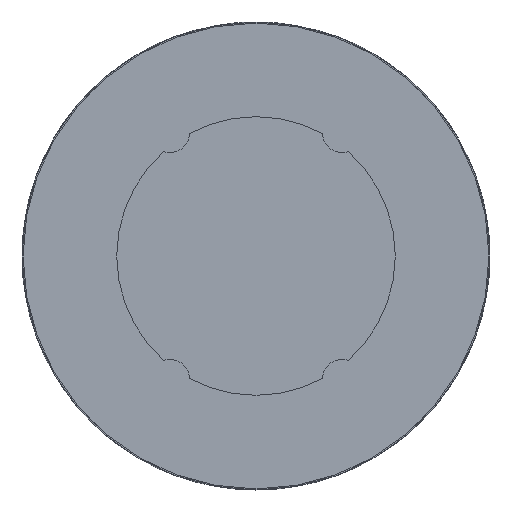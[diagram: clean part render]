
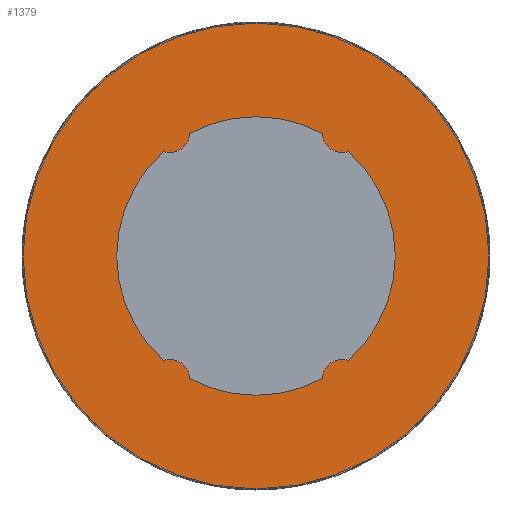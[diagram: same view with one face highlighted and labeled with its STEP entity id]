
A CAD part, left-side view. The second image highlights one B-rep face of the part: STEP entity #1379.
In plain terms, the highlighted planar face has unit normal (-1, 0, 0).
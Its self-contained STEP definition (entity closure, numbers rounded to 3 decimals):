
#1123=CARTESIAN_POINT('',(0.0,-5.974,-10.98));
#1124=VERTEX_POINT('',#1123);
#1131=CARTESIAN_POINT('',(0.0,-8.275,-9.369));
#1132=VERTEX_POINT('',#1131);
#1133=CARTESIAN_POINT('',(0.0,-7.723,-11.03));
#1134=DIRECTION('',(1.0,0.0,0.0));
#1135=DIRECTION('',(0.0,1.,0.028));
#1136=AXIS2_PLACEMENT_3D('',#1133,#1134,#1135);
#1137=CIRCLE('',#1136,1.75);
#1138=EDGE_CURVE('',#1124,#1132,#1137,.T.);
#1165=CARTESIAN_POINT('',(0.0,8.275,-9.369));
#1166=VERTEX_POINT('',#1165);
#1173=CARTESIAN_POINT('',(0.0,5.974,-10.98));
#1174=VERTEX_POINT('',#1173);
#1175=CARTESIAN_POINT('',(0.0,7.723,-11.03));
#1176=DIRECTION('',(1.,0.0,0.0));
#1177=DIRECTION('',(0.0,0.315,0.949));
#1178=AXIS2_PLACEMENT_3D('',#1175,#1176,#1177);
#1179=CIRCLE('',#1178,1.75);
#1180=EDGE_CURVE('',#1166,#1174,#1179,.T.);
#1207=CARTESIAN_POINT('',(0.0,5.974,10.98));
#1208=VERTEX_POINT('',#1207);
#1215=CARTESIAN_POINT('',(0.0,8.275,9.369));
#1216=VERTEX_POINT('',#1215);
#1217=CARTESIAN_POINT('',(0.0,7.723,11.03));
#1218=DIRECTION('',(1.0,0.0,0.0));
#1219=DIRECTION('',(0.0,-1.,-0.028));
#1220=AXIS2_PLACEMENT_3D('',#1217,#1218,#1219);
#1221=CIRCLE('',#1220,1.75);
#1222=EDGE_CURVE('',#1208,#1216,#1221,.T.);
#1249=CARTESIAN_POINT('',(0.0,-8.275,9.369));
#1250=VERTEX_POINT('',#1249);
#1257=CARTESIAN_POINT('',(0.0,-5.974,10.98));
#1258=VERTEX_POINT('',#1257);
#1259=CARTESIAN_POINT('',(0.0,-7.723,11.03));
#1260=DIRECTION('',(1.,0.0,0.0));
#1261=DIRECTION('',(0.0,-0.315,-0.949));
#1262=AXIS2_PLACEMENT_3D('',#1259,#1260,#1261);
#1263=CIRCLE('',#1262,1.75);
#1264=EDGE_CURVE('',#1250,#1258,#1263,.T.);
#1289=CARTESIAN_POINT('',(0.,0.0,0.));
#1290=DIRECTION('',(-1.0,0.0,0.0));
#1291=DIRECTION('',(0.0,0.0,1.0));
#1292=AXIS2_PLACEMENT_3D('',#1289,#1290,#1291);
#1293=CIRCLE('',#1292,12.5);
#1294=EDGE_CURVE('',#1258,#1208,#1293,.T.);
#1313=CARTESIAN_POINT('',(0.,0.0,0.));
#1314=DIRECTION('',(-1.0,0.0,0.0));
#1315=DIRECTION('',(0.0,0.0,1.0));
#1316=AXIS2_PLACEMENT_3D('',#1313,#1314,#1315);
#1317=CIRCLE('',#1316,12.5);
#1318=EDGE_CURVE('',#1216,#1166,#1317,.T.);
#1337=CARTESIAN_POINT('',(0.,0.0,0.));
#1338=DIRECTION('',(-1.0,0.0,0.0));
#1339=DIRECTION('',(0.0,0.0,1.0));
#1340=AXIS2_PLACEMENT_3D('',#1337,#1338,#1339);
#1341=CIRCLE('',#1340,12.5);
#1342=EDGE_CURVE('',#1174,#1124,#1341,.T.);
#1347=CARTESIAN_POINT('',(0.,0.0,16.7));
#1348=DIRECTION('',(-1.0,0.0,0.0));
#1349=DIRECTION('',(0.0,0.0,1.0));
#1350=AXIS2_PLACEMENT_3D('',#1347,#1348,#1349);
#1351=PLANE('',#1350);
#1352=CARTESIAN_POINT('',(0.,0.0,20.9));
#1353=VERTEX_POINT('',#1352);
#1354=CARTESIAN_POINT('',(0.,0.0,0.));
#1355=DIRECTION('',(-1.0,0.0,0.0));
#1356=DIRECTION('',(0.0,0.0,1.0));
#1357=AXIS2_PLACEMENT_3D('',#1354,#1355,#1356);
#1358=CIRCLE('',#1357,20.9);
#1359=EDGE_CURVE('',#1353,#1353,#1358,.T.);
#1360=ORIENTED_EDGE('',*,*,#1359,.T.);
#1361=EDGE_LOOP('',(#1360));
#1362=FACE_OUTER_BOUND('',#1361,.T.);
#1363=ORIENTED_EDGE('',*,*,#1294,.F.);
#1364=ORIENTED_EDGE('',*,*,#1264,.F.);
#1365=CARTESIAN_POINT('',(0.,0.0,0.));
#1366=DIRECTION('',(-1.0,0.0,0.0));
#1367=DIRECTION('',(0.0,0.0,1.0));
#1368=AXIS2_PLACEMENT_3D('',#1365,#1366,#1367);
#1369=CIRCLE('',#1368,12.5);
#1370=EDGE_CURVE('',#1132,#1250,#1369,.T.);
#1371=ORIENTED_EDGE('',*,*,#1370,.F.);
#1372=ORIENTED_EDGE('',*,*,#1138,.F.);
#1373=ORIENTED_EDGE('',*,*,#1342,.F.);
#1374=ORIENTED_EDGE('',*,*,#1180,.F.);
#1375=ORIENTED_EDGE('',*,*,#1318,.F.);
#1376=ORIENTED_EDGE('',*,*,#1222,.F.);
#1377=EDGE_LOOP('',(#1363,#1364,#1371,#1372,#1373,#1374,#1375,#1376));
#1378=FACE_BOUND('',#1377,.T.);
#1379=ADVANCED_FACE('',(#1362,#1378),#1351,.T.);
